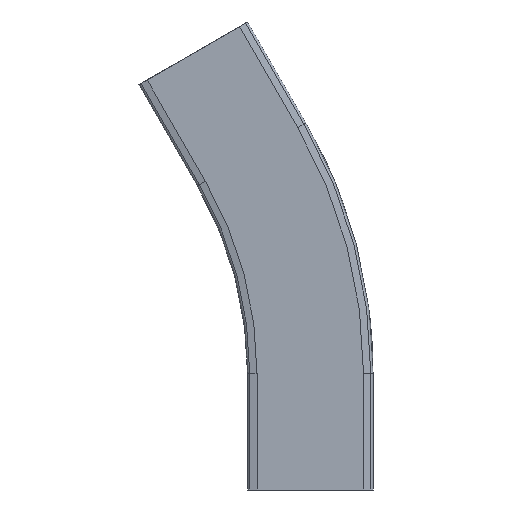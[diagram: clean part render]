
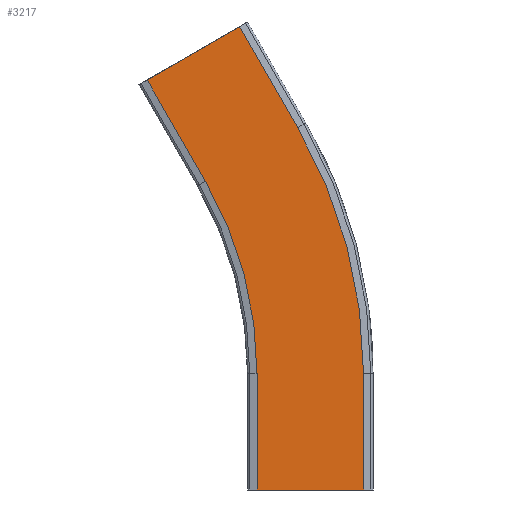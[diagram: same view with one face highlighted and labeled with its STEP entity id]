
A CAD part, front view. The second image highlights one B-rep face of the part: STEP entity #3217.
In plain terms, the highlighted planar face has unit normal (0, -1, 0).
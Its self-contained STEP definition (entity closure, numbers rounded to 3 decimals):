
#327=FACE_OUTER_BOUND('',#499,.T.);
#499=EDGE_LOOP('',(#2925,#2926,#2927,#2928,#2929,#2930,#2931,#2932));
#577=CIRCLE('',#3458,336.5);
#580=CIRCLE('',#3464,263.5);
#894=LINE('',#5545,#1236);
#899=LINE('',#5554,#1241);
#901=LINE('',#5559,#1243);
#916=LINE('',#5599,#1258);
#921=LINE('',#5610,#1263);
#922=LINE('',#5612,#1264);
#1236=VECTOR('',#4203,10.);
#1241=VECTOR('',#4210,10.);
#1243=VECTOR('',#4214,10.);
#1258=VECTOR('',#4255,10.);
#1263=VECTOR('',#4268,10.);
#1264=VECTOR('',#4271,10.);
#1544=VERTEX_POINT('',#5542);
#1545=VERTEX_POINT('',#5544);
#1548=VERTEX_POINT('',#5551);
#1549=VERTEX_POINT('',#5556);
#1559=VERTEX_POINT('',#5582);
#1561=VERTEX_POINT('',#5592);
#1562=VERTEX_POINT('',#5597);
#1564=VERTEX_POINT('',#5608);
#1988=EDGE_CURVE('',#1545,#1544,#894,.T.);
#1993=EDGE_CURVE('',#1545,#1548,#899,.T.);
#1995=EDGE_CURVE('',#1544,#1549,#901,.T.);
#2008=EDGE_CURVE('',#1549,#1559,#577,.T.);
#2014=EDGE_CURVE('',#1548,#1561,#580,.T.);
#2016=EDGE_CURVE('',#1559,#1562,#916,.T.);
#2021=EDGE_CURVE('',#1561,#1564,#921,.T.);
#2022=EDGE_CURVE('',#1562,#1564,#922,.T.);
#2925=ORIENTED_EDGE('',*,*,#2022,.T.);
#2926=ORIENTED_EDGE('',*,*,#2021,.F.);
#2927=ORIENTED_EDGE('',*,*,#2014,.F.);
#2928=ORIENTED_EDGE('',*,*,#1993,.F.);
#2929=ORIENTED_EDGE('',*,*,#1988,.T.);
#2930=ORIENTED_EDGE('',*,*,#1995,.T.);
#2931=ORIENTED_EDGE('',*,*,#2008,.T.);
#2932=ORIENTED_EDGE('',*,*,#2016,.T.);
#3050=PLANE('',#3470);
#3217=ADVANCED_FACE('',(#327),#3050,.T.);
#3458=AXIS2_PLACEMENT_3D('',#5584,#4235,#4236);
#3464=AXIS2_PLACEMENT_3D('',#5595,#4250,#4251);
#3470=AXIS2_PLACEMENT_3D('',#5611,#4269,#4270);
#4203=DIRECTION('',(1.,0.,0.));
#4210=DIRECTION('',(0.,0.,1.));
#4214=DIRECTION('',(0.,0.,1.));
#4235=DIRECTION('center_axis',(0.,-1.,0.));
#4236=DIRECTION('ref_axis',(1.,0.,0.));
#4250=DIRECTION('center_axis',(0.,-1.,0.));
#4251=DIRECTION('ref_axis',(1.,0.,0.));
#4255=DIRECTION('',(-0.5,0.,0.866));
#4268=DIRECTION('',(-0.5,0.,0.866));
#4269=DIRECTION('center_axis',(0.,-1.,0.));
#4270=DIRECTION('ref_axis',(0.5,0.,-0.866));
#4271=DIRECTION('',(-0.866,0.,-0.5));
#5542=CARTESIAN_POINT('',(36.5,-11.,0.));
#5544=CARTESIAN_POINT('',(-36.5,-11.,0.));
#5545=CARTESIAN_POINT('',(-36.5,-11.,0.));
#5551=CARTESIAN_POINT('',(-36.5,-11.,80.));
#5554=CARTESIAN_POINT('',(-36.5,-11.,0.));
#5556=CARTESIAN_POINT('',(36.5,-11.,80.));
#5559=CARTESIAN_POINT('',(36.5,-11.,0.));
#5582=CARTESIAN_POINT('',(-8.582,-11.,248.25));
#5584=CARTESIAN_POINT('Origin',(-300.,-11.,80.));
#5592=CARTESIAN_POINT('',(-71.802,-11.,211.75));
#5595=CARTESIAN_POINT('Origin',(-300.,-11.,80.));
#5597=CARTESIAN_POINT('',(-48.582,-11.,317.532));
#5599=CARTESIAN_POINT('',(109.957,-11.,42.933));
#5608=CARTESIAN_POINT('',(-111.802,-11.,281.032));
#5610=CARTESIAN_POINT('',(46.738,-11.,6.433));
#5611=CARTESIAN_POINT('Origin',(109.957,-11.,42.933));
#5612=CARTESIAN_POINT('',(-63.088,-11.,309.157));
